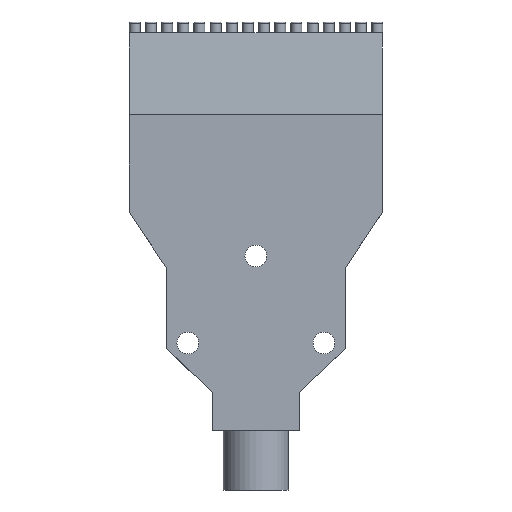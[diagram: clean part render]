
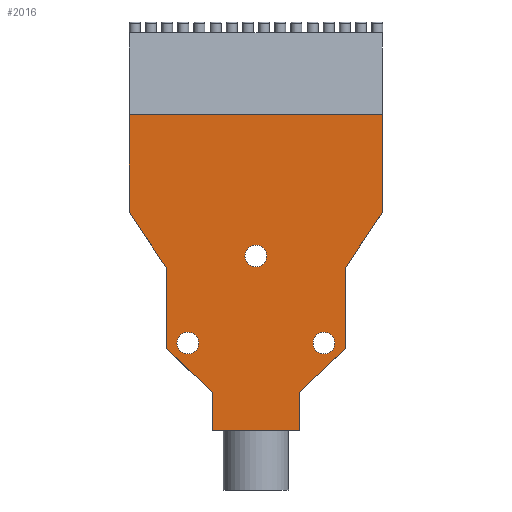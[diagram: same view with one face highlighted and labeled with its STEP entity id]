
A CAD part, front view. The second image highlights one B-rep face of the part: STEP entity #2016.
In plain terms, the highlighted planar face has unit normal (0, -1, 0).
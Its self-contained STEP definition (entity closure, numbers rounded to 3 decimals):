
#47=PLANE('',#2299);
#182=LINE('',#3569,#289);
#193=LINE('',#3610,#300);
#194=LINE('',#3612,#301);
#195=LINE('',#3614,#302);
#196=LINE('',#3615,#303);
#197=LINE('',#3617,#304);
#198=LINE('',#3619,#305);
#199=LINE('',#3621,#306);
#200=LINE('',#3623,#307);
#201=LINE('',#3625,#308);
#202=LINE('',#3627,#309);
#203=LINE('',#3628,#310);
#289=VECTOR('',#2848,16.);
#300=VECTOR('',#2863,12.133);
#301=VECTOR('',#2864,14.918);
#302=VECTOR('',#2865,11.673);
#303=VECTOR('',#2866,7.);
#304=VECTOR('',#2867,7.);
#305=VECTOR('',#2868,11.673);
#306=VECTOR('',#2869,14.918);
#307=VECTOR('',#2870,12.133);
#308=VECTOR('',#2871,18.);
#309=VECTOR('',#2872,46.5);
#310=VECTOR('',#2873,18.);
#416=FACE_BOUND('',#728,.T.);
#417=FACE_BOUND('',#729,.T.);
#418=FACE_BOUND('',#730,.T.);
#520=FACE_OUTER_BOUND('',#727,.T.);
#727=EDGE_LOOP('',(#1657,#1658,#1659,#1660,#1661,#1662,#1663,#1664,#1665,
#1666,#1667,#1668));
#728=EDGE_LOOP('',(#1669));
#729=EDGE_LOOP('',(#1670));
#730=EDGE_LOOP('',(#1671));
#922=CIRCLE('',#2245,2.);
#924=CIRCLE('',#2248,2.);
#930=CIRCLE('',#2257,2.);
#1058=VERTEX_POINT('',#3340);
#1060=VERTEX_POINT('',#3345);
#1066=VERTEX_POINT('',#3360);
#1104=VERTEX_POINT('',#3567);
#1105=VERTEX_POINT('',#3568);
#1114=VERTEX_POINT('',#3608);
#1115=VERTEX_POINT('',#3609);
#1116=VERTEX_POINT('',#3611);
#1117=VERTEX_POINT('',#3613);
#1118=VERTEX_POINT('',#3616);
#1119=VERTEX_POINT('',#3618);
#1120=VERTEX_POINT('',#3620);
#1121=VERTEX_POINT('',#3622);
#1122=VERTEX_POINT('',#3624);
#1123=VERTEX_POINT('',#3626);
#1240=EDGE_CURVE('',#1058,#1058,#922,.T.);
#1242=EDGE_CURVE('',#1060,#1060,#924,.T.);
#1248=EDGE_CURVE('',#1066,#1066,#930,.T.);
#1324=EDGE_CURVE('',#1104,#1105,#182,.T.);
#1339=EDGE_CURVE('',#1114,#1115,#193,.T.);
#1340=EDGE_CURVE('',#1115,#1116,#194,.T.);
#1341=EDGE_CURVE('',#1116,#1117,#195,.T.);
#1342=EDGE_CURVE('',#1117,#1104,#196,.T.);
#1343=EDGE_CURVE('',#1105,#1118,#197,.T.);
#1344=EDGE_CURVE('',#1118,#1119,#198,.T.);
#1345=EDGE_CURVE('',#1119,#1120,#199,.T.);
#1346=EDGE_CURVE('',#1120,#1121,#200,.T.);
#1347=EDGE_CURVE('',#1122,#1121,#201,.T.);
#1348=EDGE_CURVE('',#1123,#1122,#202,.T.);
#1349=EDGE_CURVE('',#1123,#1114,#203,.T.);
#1657=ORIENTED_EDGE('',*,*,#1339,.T.);
#1658=ORIENTED_EDGE('',*,*,#1340,.T.);
#1659=ORIENTED_EDGE('',*,*,#1341,.T.);
#1660=ORIENTED_EDGE('',*,*,#1342,.T.);
#1661=ORIENTED_EDGE('',*,*,#1324,.T.);
#1662=ORIENTED_EDGE('',*,*,#1343,.T.);
#1663=ORIENTED_EDGE('',*,*,#1344,.T.);
#1664=ORIENTED_EDGE('',*,*,#1345,.T.);
#1665=ORIENTED_EDGE('',*,*,#1346,.T.);
#1666=ORIENTED_EDGE('',*,*,#1347,.F.);
#1667=ORIENTED_EDGE('',*,*,#1348,.F.);
#1668=ORIENTED_EDGE('',*,*,#1349,.T.);
#1669=ORIENTED_EDGE('',*,*,#1248,.T.);
#1670=ORIENTED_EDGE('',*,*,#1240,.T.);
#1671=ORIENTED_EDGE('',*,*,#1242,.T.);
#2016=ADVANCED_FACE('',(#520,#416,#417,#418),#47,.F.);
#2245=AXIS2_PLACEMENT_3D('',#3341,#2688,#2689);
#2248=AXIS2_PLACEMENT_3D('',#3346,#2694,#2695);
#2257=AXIS2_PLACEMENT_3D('',#3361,#2712,#2713);
#2299=AXIS2_PLACEMENT_3D('',#3607,#2861,#2862);
#2688=DIRECTION('center_axis',(0.,1.,0.));
#2689=DIRECTION('ref_axis',(0.,0.,-1.));
#2694=DIRECTION('center_axis',(0.,1.,0.));
#2695=DIRECTION('ref_axis',(0.,0.,1.));
#2712=DIRECTION('center_axis',(0.,1.,0.));
#2713=DIRECTION('ref_axis',(0.,0.,1.));
#2848=DIRECTION('',(1.,0.,0.));
#2861=DIRECTION('center_axis',(0.,1.,0.));
#2862=DIRECTION('ref_axis',(0.,0.,1.));
#2863=DIRECTION('',(0.556,0.,-0.831));
#2864=DIRECTION('',(0.,0.,-1.));
#2865=DIRECTION('',(0.728,0.,-0.685));
#2866=DIRECTION('',(0.,0.,-1.));
#2867=DIRECTION('',(0.,0.,1.));
#2868=DIRECTION('',(0.728,0.,0.685));
#2869=DIRECTION('',(0.,0.,1.));
#2870=DIRECTION('',(0.556,0.,0.831));
#2871=DIRECTION('',(0.,0.,-1.));
#2872=DIRECTION('',(1.,0.,0.));
#2873=DIRECTION('',(0.,0.,-1.));
#3340=CARTESIAN_POINT('',(12.5,-7.75,29.));
#3341=CARTESIAN_POINT('Origin',(12.5,-7.75,27.));
#3345=CARTESIAN_POINT('',(-12.5,-7.75,29.));
#3346=CARTESIAN_POINT('Origin',(-12.5,-7.75,27.));
#3360=CARTESIAN_POINT('',(0.,-7.75,45.));
#3361=CARTESIAN_POINT('Origin',(0.,-7.75,43.));
#3567=CARTESIAN_POINT('',(-8.,-7.75,11.));
#3568=CARTESIAN_POINT('',(8.,-7.75,11.));
#3569=CARTESIAN_POINT('',(-7.75,-7.75,11.));
#3607=CARTESIAN_POINT('Origin',(-7.75,-7.75,21.));
#3608=CARTESIAN_POINT('',(-23.25,-7.75,51.));
#3609=CARTESIAN_POINT('',(-16.5,-7.75,40.918));
#3610=CARTESIAN_POINT('',(-23.25,-7.75,51.));
#3611=CARTESIAN_POINT('',(-16.5,-7.75,26.));
#3612=CARTESIAN_POINT('',(-16.5,-7.75,26.));
#3613=CARTESIAN_POINT('',(-8.,-7.75,18.));
#3614=CARTESIAN_POINT('',(-8.,-7.75,18.));
#3615=CARTESIAN_POINT('',(-8.,-7.75,11.));
#3616=CARTESIAN_POINT('',(8.,-7.75,18.));
#3617=CARTESIAN_POINT('',(8.,-7.75,11.));
#3618=CARTESIAN_POINT('',(16.5,-7.75,26.));
#3619=CARTESIAN_POINT('',(8.,-7.75,18.));
#3620=CARTESIAN_POINT('',(16.5,-7.75,40.918));
#3621=CARTESIAN_POINT('',(16.5,-7.75,26.));
#3622=CARTESIAN_POINT('',(23.25,-7.75,51.));
#3623=CARTESIAN_POINT('',(23.25,-7.75,51.));
#3624=CARTESIAN_POINT('',(23.25,-7.75,69.));
#3625=CARTESIAN_POINT('',(23.25,-7.75,69.));
#3626=CARTESIAN_POINT('',(-23.25,-7.75,69.));
#3627=CARTESIAN_POINT('',(-23.25,-7.75,69.));
#3628=CARTESIAN_POINT('',(-23.25,-7.75,69.));
